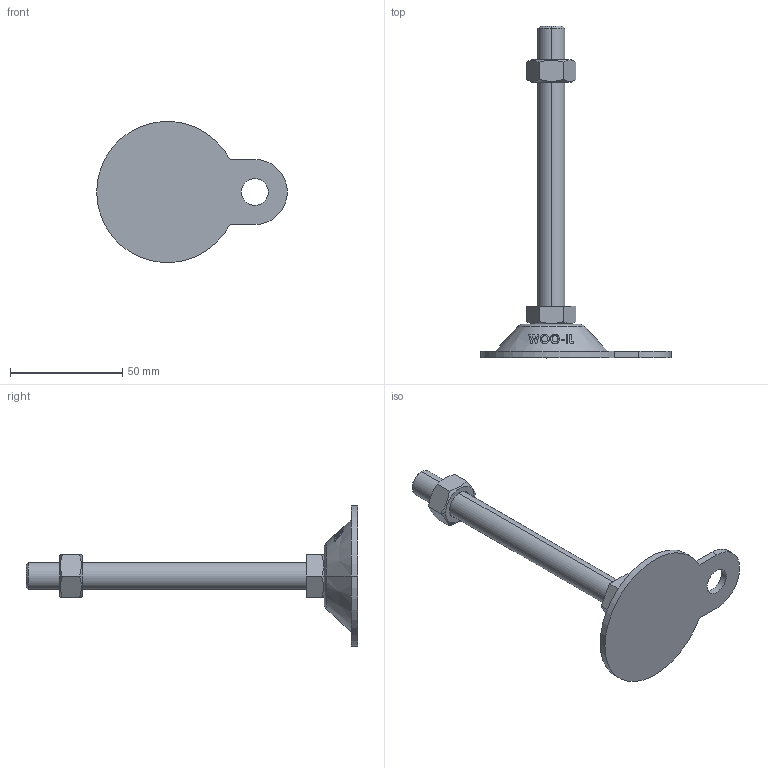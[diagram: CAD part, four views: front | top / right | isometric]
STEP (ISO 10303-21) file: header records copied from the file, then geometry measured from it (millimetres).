
FILE_DESCRIPTION (( 'STEP AP214' ), '1' );
FILE_NAME ('ABL63-M12-125.step', '2021-02-05T04:18:56', ( '' ), ( '' ), 'SwSTEP 2.0', 'SolidWorks 2019', '' );
FILE_SCHEMA (( 'AUTOMOTIVE_DESIGN' ));
Length unit declared in the file: millimetre
Products named in the file (2): ABL63-M12-125
Bounding box: 85 x 148 x 62.83 mm (x, y, z)
Volume: 43961.3 mm3; surface area: 15371.4 mm2
Topology: 2 solids, 2 shells, 128 faces, 325 edges, 212 vertices
Faces by surface type: plane 48, cylinder 38, cone 22, bspline 18, torus 2
Entity records: 5459 total; most frequent: CARTESIAN_POINT 2573, ORIENTED_EDGE 650, DIRECTION 473, EDGE_CURVE 325, VERTEX_POINT 212, AXIS2_PLACEMENT_3D 176, EDGE_LOOP 143, B_SPLINE_CURVE_WITH_KNOTS 140
